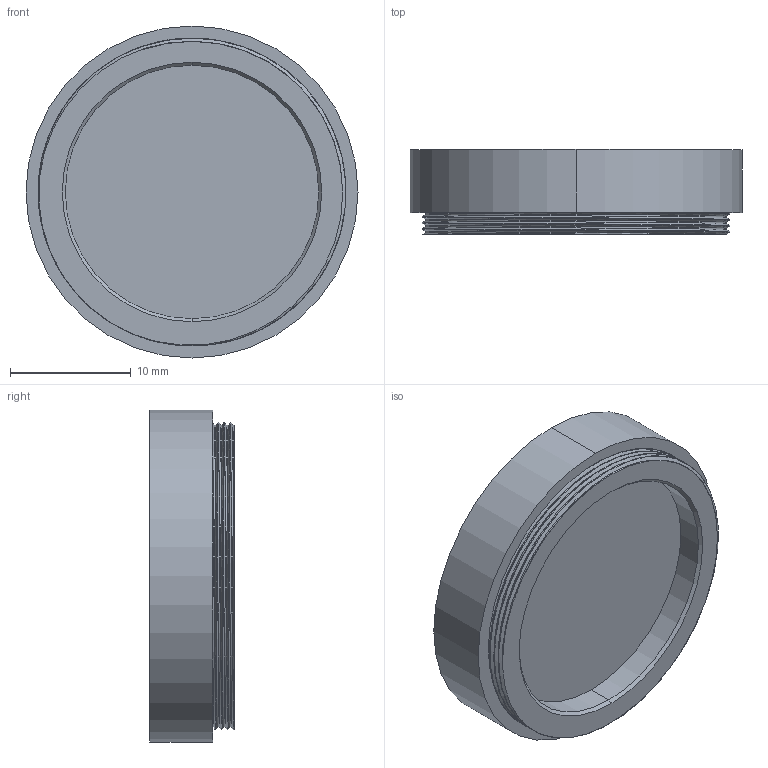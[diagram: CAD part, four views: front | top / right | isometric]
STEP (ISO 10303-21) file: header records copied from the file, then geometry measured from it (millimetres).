
FILE_DESCRIPTION (( 'STEP AP214' ), '1' );
FILE_NAME ('M25.5 x P0.5.STEP', '2023-01-19T08:17:44', ( '' ), ( '' ), 'SwSTEP 2.0', 'SolidWorks 2021', '' );
FILE_SCHEMA (( 'AUTOMOTIVE_DESIGN' ));
Length unit declared in the file: millimetre
Products named in the file (1): M25.5 x P0.5
Bounding box: 27.5 x 7 x 27.5 mm (x, y, z)
Volume: 1172.1 mm3; surface area: 3004.4 mm2
Topology: 3 solids, 3 shells, 50 faces, 121 edges, 80 vertices
Faces by surface type: cylinder 32, plane 10, bspline 6, cone 2
Entity records: 2851 total; most frequent: CARTESIAN_POINT 1756, ORIENTED_EDGE 242, DIRECTION 191, EDGE_CURVE 121, VERTEX_POINT 80, AXIS2_PLACEMENT_3D 79, EDGE_LOOP 57, ADVANCED_FACE 50
